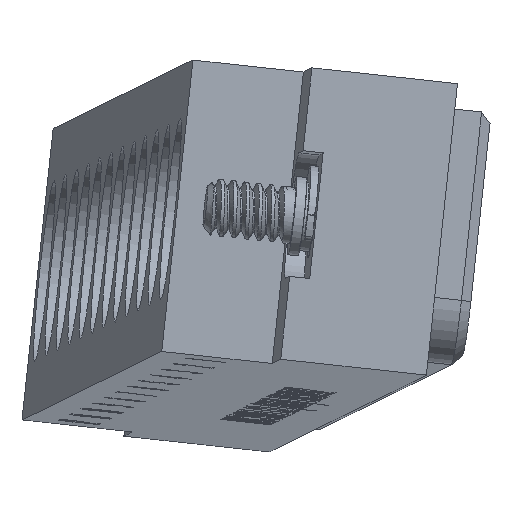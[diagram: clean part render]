
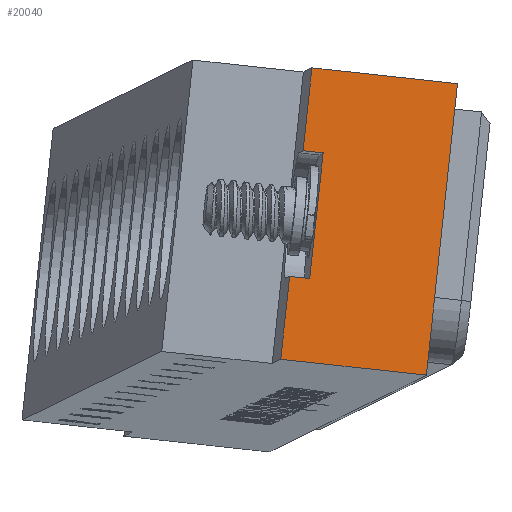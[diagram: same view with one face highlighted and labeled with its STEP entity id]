
A CAD part, top view. The second image highlights one B-rep face of the part: STEP entity #20040.
In plain terms, the highlighted planar face has unit normal (0.054, 0.025, 0.998).
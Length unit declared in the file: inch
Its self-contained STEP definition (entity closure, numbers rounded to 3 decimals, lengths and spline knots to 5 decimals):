
#10735=CARTESIAN_POINT('',(0.33281,0.06013,3.15802));
#10736=VERTEX_POINT('',#10735);
#10743=CARTESIAN_POINT('',(0.04488,0.09141,3.17281));
#10744=VERTEX_POINT('',#10743);
#10745=CARTESIAN_POINT('',(0.04488,0.09141,3.17281));
#10746=DIRECTION('',(0.993,-0.108,-0.051));
#10747=VECTOR('',#10746,0.29);
#10748=LINE('',#10745,#10747);
#10749=EDGE_CURVE('',#10744,#10736,#10748,.T.);
#19425=CARTESIAN_POINT('',(0.12876,0.49955,3.15818));
#19426=VERTEX_POINT('',#19425);
#19435=CARTESIAN_POINT('',(0.08905,0.50387,3.16022));
#19436=VERTEX_POINT('',#19435);
#19437=CARTESIAN_POINT('',(0.08905,0.50387,3.16022));
#19438=DIRECTION('',(0.993,-0.108,-0.051));
#19439=VECTOR('',#19438,0.04);
#19440=LINE('',#19437,#19439);
#19441=EDGE_CURVE('',#19436,#19426,#19440,.T.);
#19498=CARTESIAN_POINT('',(0.10215,0.25109,3.16576));
#19499=VERTEX_POINT('',#19498);
#19507=CARTESIAN_POINT('',(0.06244,0.2554,3.16781));
#19508=VERTEX_POINT('',#19507);
#19515=CARTESIAN_POINT('',(0.10215,0.25109,3.16576));
#19516=DIRECTION('',(-0.993,0.108,0.051));
#19517=VECTOR('',#19516,0.04);
#19518=LINE('',#19515,#19517);
#19519=EDGE_CURVE('',#19499,#19508,#19518,.T.);
#19532=CARTESIAN_POINT('',(0.12876,0.49955,3.15818));
#19533=DIRECTION('',(-0.106,-0.994,0.03));
#19534=VECTOR('',#19533,0.25);
#19535=LINE('',#19532,#19534);
#19536=EDGE_CURVE('',#19426,#19499,#19535,.T.);
#19692=CARTESIAN_POINT('',(0.10661,0.66785,3.15521));
#19693=VERTEX_POINT('',#19692);
#19694=CARTESIAN_POINT('',(0.10661,0.66785,3.15521));
#19695=DIRECTION('',(-0.106,-0.994,0.03));
#19696=VECTOR('',#19695,0.165);
#19697=LINE('',#19694,#19696);
#19698=EDGE_CURVE('',#19693,#19436,#19697,.T.);
#19715=CARTESIAN_POINT('',(0.06244,0.2554,3.16781));
#19716=DIRECTION('',(-0.106,-0.994,0.03));
#19717=VECTOR('',#19716,0.165);
#19718=LINE('',#19715,#19717);
#19719=EDGE_CURVE('',#19508,#10744,#19718,.T.);
#20013=CARTESIAN_POINT('',(0.10661,0.66785,3.15521));
#20014=DIRECTION('',(0.054,0.025,0.998));
#20015=DIRECTION('',(-0.106,-0.994,0.03));
#20016=AXIS2_PLACEMENT_3D('',#20013,#20014,#20015);
#20017=PLANE('',#20016);
#20018=ORIENTED_EDGE('',*,*,#19519,.T.);
#20019=ORIENTED_EDGE('',*,*,#19719,.T.);
#20020=ORIENTED_EDGE('',*,*,#10749,.T.);
#20021=CARTESIAN_POINT('',(0.39454,0.63657,3.14042));
#20022=VERTEX_POINT('',#20021);
#20023=CARTESIAN_POINT('',(0.39454,0.63657,3.14042));
#20024=DIRECTION('',(-0.106,-0.994,0.03));
#20025=VECTOR('',#20024,0.58);
#20026=LINE('',#20023,#20025);
#20027=EDGE_CURVE('',#20022,#10736,#20026,.T.);
#20028=ORIENTED_EDGE('',*,*,#20027,.F.);
#20029=CARTESIAN_POINT('',(0.10661,0.66785,3.15521));
#20030=DIRECTION('',(0.993,-0.108,-0.051));
#20031=VECTOR('',#20030,0.29);
#20032=LINE('',#20029,#20031);
#20033=EDGE_CURVE('',#19693,#20022,#20032,.T.);
#20034=ORIENTED_EDGE('',*,*,#20033,.F.);
#20035=ORIENTED_EDGE('',*,*,#19698,.T.);
#20036=ORIENTED_EDGE('',*,*,#19441,.T.);
#20037=ORIENTED_EDGE('',*,*,#19536,.T.);
#20038=EDGE_LOOP('',(#20018,#20019,#20020,#20028,#20034,#20035,#20036,#20037));
#20039=FACE_OUTER_BOUND('',#20038,.T.);
#20040=ADVANCED_FACE('',(#20039),#20017,.T.);
